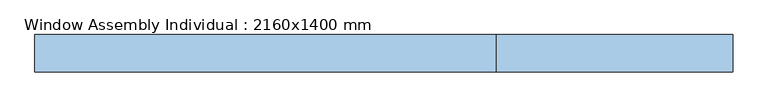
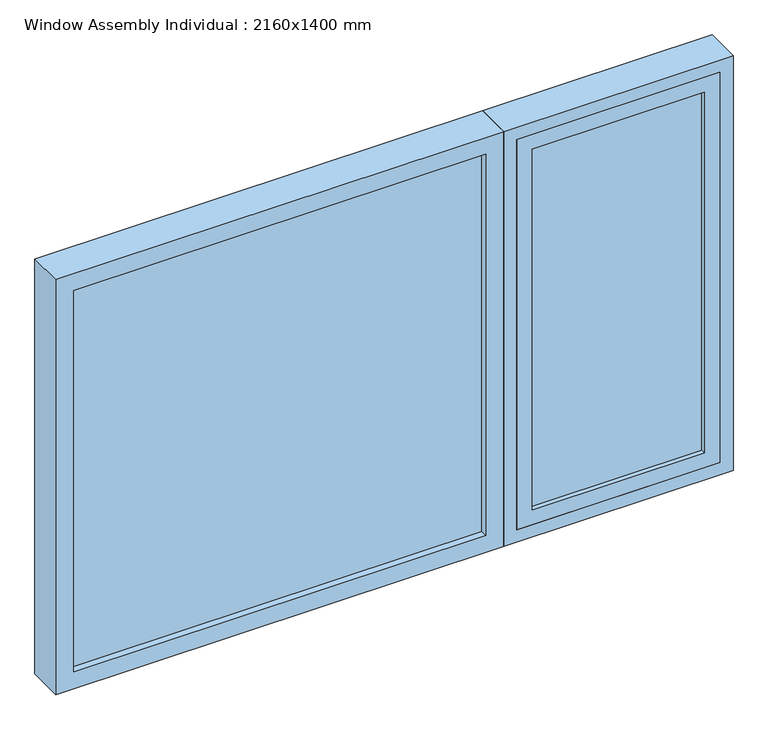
"""IFC4 building model written with IfcOpenShell, lengths in millimetres: window geometry, Window Assembly Individual : 2160x1400 mm."""

from ifc_helpers import new_model, si_unit, frame, origin, place, context, project, spatial, polyline, outline, extrude, faceted_brep, source, transform, mapped, element, save


def window_assembly_individual_2160x1400_mm_6f070fa8(model_context):
    return source(origin(), model_context, "Body", "SolidModel", [
        extrude(outline(polyline([(2200.0, 348.0), (2200.0, -1080.0), (800.0, -1080.0), (800.0, 348.0), (2200.0, 348.0)]), holes=[polyline([(2143.0, -1023.0), (2143.0, 291.0), (857.0, 291.0), (857.0, -1023.0), (2143.0, -1023.0)])]), frame((0.0, -150.0, 0.0), z_axis=(0.0, 1.0, 0.0), x_axis=(0.0, 0.0, 1.0)), (0.0, 0.0, 1.0), 115.0),
        extrude(outline(polyline([(291.0, -100.0), (291.0, -128.0), (-1023.0, -128.0), (-1023.0, -100.0), (291.0, -100.0)])), frame((0.0, 0.0, 857.0), z_axis=(0.0, 0.0, 1.0), x_axis=(1.0, 0.0, 0.0)), (0.0, 0.0, 1.0), 1286.0),
        extrude(outline(polyline([(2158.0, 1038.0), (2158.0, 390.0), (842.0, 390.0), (842.0, 1038.0), (2158.0, 1038.0)]), holes=[polyline([(2108.0, 440.0), (2108.0, 988.0), (892.0, 988.0), (892.0, 440.0), (2108.0, 440.0)])]), frame((0.0, -150.0, 0.0), z_axis=(0.0, 1.0, 0.0), x_axis=(0.0, 0.0, 1.0)), (0.0, 0.0, 1.0), 50.0),
        faceted_brep([(348.0, -35.0, 2200.0), (348.0, -35.0, 800.0), (348.0, -150.0, 800.0), (348.0, -150.0, 2200.0), (1080.0, -150.0, 2200.0), (1080.0, -150.0, 800.0), (390.0, -150.0, 2158.0), (1038.0, -150.0, 2158.0), (1038.0, -150.0, 842.0), (390.0, -150.0, 842.0), (1080.0, -35.0, 800.0), (1080.0, -35.0, 2200.0), (1023.0, -35.0, 2143.0), (405.0, -35.0, 2143.0), (405.0, -35.0, 857.0), (1023.0, -35.0, 857.0), (405.0, -100.0, 2143.0), (405.0, -100.0, 857.0), (1023.0, -100.0, 857.0), (1038.0, -100.0, 2158.0), (390.0, -100.0, 2158.0), (390.0, -100.0, 842.0), (1038.0, -100.0, 842.0), (1023.0, -100.0, 2143.0)], [[[0, 1, 2, 3]], [[4, 3, 2, 5], [6, 7, 8, 9]], [[1, 10, 5, 2]], [[0, 11, 10, 1], [12, 13, 14, 15]], [[16, 17, 14, 13]], [[17, 18, 15, 14]], [[19, 20, 21, 22], [16, 23, 18, 17]], [[6, 9, 21, 20]], [[9, 8, 22, 21]], [[10, 11, 4, 5]], [[18, 23, 12, 15]], [[8, 7, 19, 22]], [[11, 0, 3, 4]], [[23, 16, 13, 12]], [[7, 6, 20, 19]]]),
        extrude(outline(polyline([(988.0, -114.0), (988.0, -136.0), (440.0, -136.0), (440.0, -114.0), (988.0, -114.0)])), frame((0.0, 0.0, 892.0), z_axis=(0.0, 0.0, 1.0), x_axis=(1.0, 0.0, 0.0)), (0.0, 0.0, 1.0), 1216.0),
    ])


if __name__ == "__main__":
    model = new_model("IFC4")
    model_context = context("Model", 3, world=origin())
    ifc_project = project(units=[si_unit("LENGTHUNIT", "METRE", prefix="MILLI")], contexts=[model_context])
    site = spatial("IfcSite", under=ifc_project)
    building = spatial("IfcBuilding", under=site)
    placement = place(None, origin())
    window_assembly_individual_2160x1400_mm_shape = window_assembly_individual_2160x1400_mm_6f070fa8(model_context)
    element("IfcWindow", 1, ObjectType="Window Assembly Individual : 2160x1400 mm", at=placement, inside=building, context=model_context, shape_type="MappedRepresentation", body=[
        mapped(window_assembly_individual_2160x1400_mm_shape, transform((0.0, 0.0, 0.0), x_axis=(1.0, 0.0, 0.0), y_axis=(0.0, 1.0, 0.0), z_axis=(0.0, 0.0, 1.0))),
    ])
    save(model, "model.ifc")
